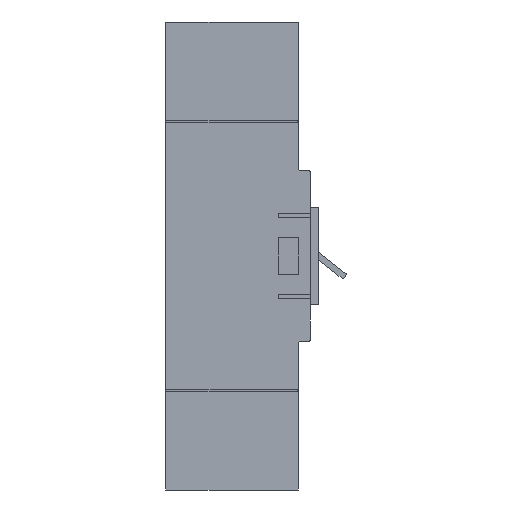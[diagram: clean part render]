
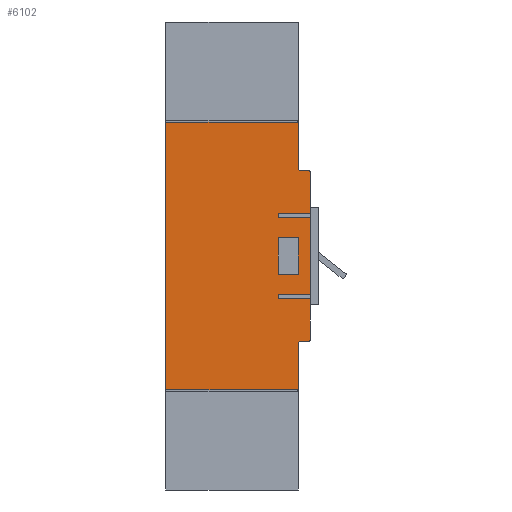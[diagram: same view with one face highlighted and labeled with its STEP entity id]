
A CAD part, left-side view. The second image highlights one B-rep face of the part: STEP entity #6102.
In plain terms, the highlighted planar face has unit normal (-1, 0, 0).
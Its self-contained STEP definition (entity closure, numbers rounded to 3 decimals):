
#166=CIRCLE('',#6363,1.);
#188=CIRCLE('',#6418,1.);
#189=CIRCLE('',#6419,1.);
#190=CIRCLE('',#6420,1.);
#191=CIRCLE('',#6421,1.);
#227=FACE_BOUND('',#1060,.T.);
#713=FACE_OUTER_BOUND('',#1059,.T.);
#1059=EDGE_LOOP('',(#5416,#5417,#5418,#5419,#5420,#5421,#5422,#5423,#5424,
#5425,#5426,#5427,#5428,#5429,#5430,#5431,#5432,#5433,#5434,#5435,#5436));
#1060=EDGE_LOOP('',(#5437,#5438,#5439,#5440));
#1084=LINE('',#7762,#1738);
#1088=LINE('',#7770,#1742);
#1091=LINE('',#7776,#1745);
#1095=LINE('',#7785,#1749);
#1099=LINE('',#7793,#1753);
#1102=LINE('',#7799,#1756);
#1106=LINE('',#7808,#1760);
#1110=LINE('',#7816,#1764);
#1113=LINE('',#7822,#1767);
#1116=LINE('',#7827,#1770);
#1118=LINE('',#7832,#1772);
#1130=LINE('',#7855,#1784);
#1131=LINE('',#7856,#1785);
#1324=LINE('',#8589,#1978);
#1692=LINE('',#10547,#2346);
#1699=LINE('',#10561,#2353);
#1704=LINE('',#10581,#2358);
#1705=LINE('',#10584,#2359);
#1706=LINE('',#10586,#2360);
#1707=LINE('',#10590,#2361);
#1738=VECTOR('',#6456,16.);
#1742=VECTOR('',#6462,2.);
#1745=VECTOR('',#6467,16.);
#1749=VECTOR('',#6475,16.);
#1753=VECTOR('',#6481,2.);
#1756=VECTOR('',#6486,16.);
#1760=VECTOR('',#6494,10.);
#1764=VECTOR('',#6500,18.4);
#1767=VECTOR('',#6505,10.);
#1770=VECTOR('',#6510,18.4);
#1772=VECTOR('',#6516,20.3);
#1784=VECTOR('',#6528,20.3);
#1785=VECTOR('',#6529,38.4);
#1978=VECTOR('',#6806,133.073);
#2346=VECTOR('',#7622,65.997);
#2353=VECTOR('',#7639,66.);
#2358=VECTOR('',#7658,4.);
#2359=VECTOR('',#7661,23.);
#2360=VECTOR('',#7662,23.);
#2361=VECTOR('',#7665,4.);
#2392=VERTEX_POINT('',#7760);
#2393=VERTEX_POINT('',#7761);
#2396=VERTEX_POINT('',#7769);
#2398=VERTEX_POINT('',#7775);
#2400=VERTEX_POINT('',#7783);
#2401=VERTEX_POINT('',#7784);
#2404=VERTEX_POINT('',#7792);
#2406=VERTEX_POINT('',#7798);
#2408=VERTEX_POINT('',#7806);
#2409=VERTEX_POINT('',#7807);
#2412=VERTEX_POINT('',#7815);
#2414=VERTEX_POINT('',#7821);
#2416=VERTEX_POINT('',#7831);
#2427=VERTEX_POINT('',#7853);
#2668=VERTEX_POINT('',#8586);
#2669=VERTEX_POINT('',#8588);
#2911=VERTEX_POINT('',#10434);
#2912=VERTEX_POINT('',#10436);
#2944=VERTEX_POINT('',#10559);
#2951=VERTEX_POINT('',#10578);
#2952=VERTEX_POINT('',#10580);
#2953=VERTEX_POINT('',#10582);
#2954=VERTEX_POINT('',#10585);
#2955=VERTEX_POINT('',#10587);
#2956=VERTEX_POINT('',#10589);
#2977=EDGE_CURVE('',#2392,#2393,#1084,.T.);
#2981=EDGE_CURVE('',#2396,#2392,#1088,.T.);
#2984=EDGE_CURVE('',#2398,#2396,#1091,.T.);
#2988=EDGE_CURVE('',#2400,#2401,#1095,.T.);
#2992=EDGE_CURVE('',#2404,#2400,#1099,.T.);
#2995=EDGE_CURVE('',#2406,#2404,#1102,.T.);
#2999=EDGE_CURVE('',#2408,#2409,#1106,.T.);
#3003=EDGE_CURVE('',#2412,#2408,#1110,.T.);
#3006=EDGE_CURVE('',#2414,#2412,#1113,.T.);
#3009=EDGE_CURVE('',#2409,#2414,#1116,.T.);
#3011=EDGE_CURVE('',#2398,#2416,#1118,.T.);
#3023=EDGE_CURVE('',#2427,#2401,#1130,.T.);
#3024=EDGE_CURVE('',#2406,#2393,#1131,.T.);
#3292=EDGE_CURVE('',#2668,#2669,#1324,.T.);
#3734=EDGE_CURVE('',#2911,#2912,#166,.T.);
#3788=EDGE_CURVE('',#2668,#2912,#1692,.T.);
#3795=EDGE_CURVE('',#2944,#2669,#1699,.T.);
#3804=EDGE_CURVE('',#2951,#2427,#188,.T.);
#3805=EDGE_CURVE('',#2952,#2951,#1704,.T.);
#3806=EDGE_CURVE('',#2953,#2952,#189,.T.);
#3807=EDGE_CURVE('',#2944,#2953,#1705,.T.);
#3808=EDGE_CURVE('',#2954,#2911,#1706,.T.);
#3809=EDGE_CURVE('',#2955,#2954,#190,.T.);
#3810=EDGE_CURVE('',#2956,#2955,#1707,.T.);
#3811=EDGE_CURVE('',#2416,#2956,#191,.T.);
#5416=ORIENTED_EDGE('',*,*,#2977,.T.);
#5417=ORIENTED_EDGE('',*,*,#3024,.F.);
#5418=ORIENTED_EDGE('',*,*,#2995,.T.);
#5419=ORIENTED_EDGE('',*,*,#2992,.T.);
#5420=ORIENTED_EDGE('',*,*,#2988,.T.);
#5421=ORIENTED_EDGE('',*,*,#3023,.F.);
#5422=ORIENTED_EDGE('',*,*,#3804,.F.);
#5423=ORIENTED_EDGE('',*,*,#3805,.F.);
#5424=ORIENTED_EDGE('',*,*,#3806,.F.);
#5425=ORIENTED_EDGE('',*,*,#3807,.F.);
#5426=ORIENTED_EDGE('',*,*,#3795,.T.);
#5427=ORIENTED_EDGE('',*,*,#3292,.F.);
#5428=ORIENTED_EDGE('',*,*,#3788,.T.);
#5429=ORIENTED_EDGE('',*,*,#3734,.F.);
#5430=ORIENTED_EDGE('',*,*,#3808,.F.);
#5431=ORIENTED_EDGE('',*,*,#3809,.F.);
#5432=ORIENTED_EDGE('',*,*,#3810,.F.);
#5433=ORIENTED_EDGE('',*,*,#3811,.F.);
#5434=ORIENTED_EDGE('',*,*,#3011,.F.);
#5435=ORIENTED_EDGE('',*,*,#2984,.T.);
#5436=ORIENTED_EDGE('',*,*,#2981,.T.);
#5437=ORIENTED_EDGE('',*,*,#2999,.T.);
#5438=ORIENTED_EDGE('',*,*,#3009,.T.);
#5439=ORIENTED_EDGE('',*,*,#3006,.T.);
#5440=ORIENTED_EDGE('',*,*,#3003,.T.);
#5791=PLANE('',#6417);
#6102=ADVANCED_FACE('',(#713,#227),#5791,.F.);
#6363=AXIS2_PLACEMENT_3D('',#10437,#7498,#7499);
#6417=AXIS2_PLACEMENT_3D('',#10577,#7654,#7655);
#6418=AXIS2_PLACEMENT_3D('',#10579,#7656,#7657);
#6419=AXIS2_PLACEMENT_3D('',#10583,#7659,#7660);
#6420=AXIS2_PLACEMENT_3D('',#10588,#7663,#7664);
#6421=AXIS2_PLACEMENT_3D('',#10591,#7666,#7667);
#6456=DIRECTION('',(0.,-1.,0.));
#6462=DIRECTION('',(0.,0.,1.));
#6467=DIRECTION('',(0.,1.,0.));
#6475=DIRECTION('',(0.,-1.,0.));
#6481=DIRECTION('',(0.,0.,1.));
#6486=DIRECTION('',(0.,1.,0.));
#6494=DIRECTION('',(0.,-1.,0.));
#6500=DIRECTION('',(0.,0.,1.));
#6505=DIRECTION('',(0.,1.,0.));
#6510=DIRECTION('',(0.,0.,-1.));
#6516=DIRECTION('',(0.,0.,-1.));
#6528=DIRECTION('',(0.,0.,-1.));
#6529=DIRECTION('',(0.,0.,-1.));
#6806=DIRECTION('',(0.,0.,1.));
#7498=DIRECTION('center_axis',(1.,0.,0.));
#7499=DIRECTION('ref_axis',(0.,-0.707,-0.707));
#7622=DIRECTION('',(0.,-1.,0.));
#7639=DIRECTION('',(0.,1.,0.));
#7654=DIRECTION('center_axis',(1.,0.,0.));
#7655=DIRECTION('ref_axis',(0.,0.,1.));
#7656=DIRECTION('center_axis',(1.,0.,0.));
#7657=DIRECTION('ref_axis',(0.,-0.707,0.707));
#7658=DIRECTION('',(0.,-1.,0.));
#7659=DIRECTION('center_axis',(-1.,0.,0.));
#7660=DIRECTION('ref_axis',(0.,0.707,-0.707));
#7661=DIRECTION('',(0.,0.,-1.));
#7662=DIRECTION('',(0.,0.,-1.));
#7663=DIRECTION('center_axis',(-1.,0.,0.));
#7664=DIRECTION('ref_axis',(0.,0.707,0.707));
#7665=DIRECTION('',(0.,1.,0.));
#7666=DIRECTION('center_axis',(1.,0.,0.));
#7667=DIRECTION('ref_axis',(0.,-0.707,-0.707));
#7760=CARTESIAN_POINT('',(0.,86.398,48.227));
#7761=CARTESIAN_POINT('',(0.,70.398,48.227));
#7762=CARTESIAN_POINT('',(0.,94.514,48.227));
#7769=CARTESIAN_POINT('',(0.,86.398,46.227));
#7770=CARTESIAN_POINT('',(0.,86.398,56.617));
#7775=CARTESIAN_POINT('',(0.,70.398,46.227));
#7776=CARTESIAN_POINT('',(0.,86.514,46.227));
#7783=CARTESIAN_POINT('',(0.,86.398,88.627));
#7784=CARTESIAN_POINT('',(0.,70.398,88.627));
#7785=CARTESIAN_POINT('',(0.,94.514,88.627));
#7792=CARTESIAN_POINT('',(0.,86.398,86.627));
#7793=CARTESIAN_POINT('',(0.,86.398,76.817));
#7798=CARTESIAN_POINT('',(0.,70.398,86.627));
#7799=CARTESIAN_POINT('',(0.,86.514,86.627));
#7806=CARTESIAN_POINT('',(0.,86.398,76.627));
#7807=CARTESIAN_POINT('',(0.,76.398,76.627));
#7808=CARTESIAN_POINT('',(0.,94.514,76.627));
#7815=CARTESIAN_POINT('',(0.,86.398,58.227));
#7816=CARTESIAN_POINT('',(0.,86.398,62.617));
#7821=CARTESIAN_POINT('',(0.,76.398,58.227));
#7822=CARTESIAN_POINT('',(0.,89.514,58.227));
#7827=CARTESIAN_POINT('',(0.,76.398,71.817));
#7831=CARTESIAN_POINT('',(0.,70.398,25.927));
#7832=CARTESIAN_POINT('',(0.,70.398,109.927));
#7853=CARTESIAN_POINT('',(0.,70.398,108.927));
#7855=CARTESIAN_POINT('',(0.,70.398,109.927));
#7856=CARTESIAN_POINT('',(0.,70.398,109.927));
#8586=CARTESIAN_POINT('',(0.,142.398,0.853));
#8588=CARTESIAN_POINT('',(0.,142.398,133.927));
#8589=CARTESIAN_POINT('',(0.,142.398,-0.073));
#10434=CARTESIAN_POINT('',(0.,76.398,0.927));
#10436=CARTESIAN_POINT('',(0.,76.4,0.853));
#10437=CARTESIAN_POINT('Origin',(0.,77.398,0.927));
#10547=CARTESIAN_POINT('',(0.,122.514,0.853));
#10559=CARTESIAN_POINT('',(0.,76.398,133.927));
#10561=CARTESIAN_POINT('',(0.,122.514,133.927));
#10577=CARTESIAN_POINT('Origin',(0.,102.63,67.007));
#10578=CARTESIAN_POINT('',(0.,71.398,109.927));
#10579=CARTESIAN_POINT('Origin',(0.,71.398,108.927));
#10580=CARTESIAN_POINT('',(0.,75.398,109.927));
#10581=CARTESIAN_POINT('',(0.,76.398,109.927));
#10582=CARTESIAN_POINT('',(0.,76.398,110.927));
#10583=CARTESIAN_POINT('Origin',(0.,75.398,110.927));
#10584=CARTESIAN_POINT('',(0.,76.398,134.927));
#10585=CARTESIAN_POINT('',(0.,76.398,23.927));
#10586=CARTESIAN_POINT('',(0.,76.398,24.927));
#10587=CARTESIAN_POINT('',(0.,75.398,24.927));
#10588=CARTESIAN_POINT('Origin',(0.,75.398,23.927));
#10589=CARTESIAN_POINT('',(0.,71.398,24.927));
#10590=CARTESIAN_POINT('',(0.,70.398,24.927));
#10591=CARTESIAN_POINT('Origin',(0.,71.398,25.927));
